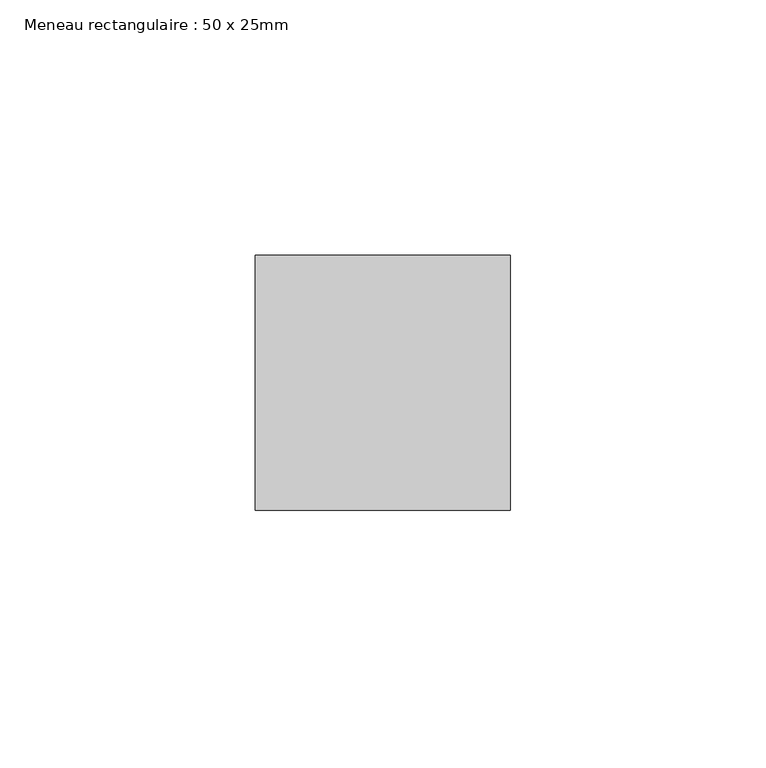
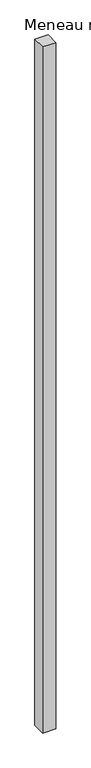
"""IFC4 building model written with IfcOpenShell, lengths in millimetres: member geometry, Meneau rectangulaire : 50 x 25mm."""

from ifc_helpers import new_model, si_unit, frame, origin, place, context, project, spatial, polyline, outline, extrude, source, transform, mapped, element, save


def meneau_rectangulaire_50_x_25mm_8ffd65cf(model_context):
    return source(origin(), model_context, "Body", "SweptSolid", [
        extrude(outline(polyline([(0.0, 0.0), (0.0, -50.0), (-50.0, -50.0), (-50.0, 0.0), (0.0, 0.0)])), frame((0.0, 0.0, -2714.8242181), z_axis=(0.0, 0.0, 1.0), x_axis=(1.0, 0.0, 0.0)), (0.0, 0.0, 1.0), 2714.8242181),
    ])


if __name__ == "__main__":
    model = new_model("IFC4")
    model_context = context("Model", 3, world=origin())
    ifc_project = project(units=[si_unit("LENGTHUNIT", "METRE", prefix="MILLI")], contexts=[model_context])
    site = spatial("IfcSite", under=ifc_project)
    building = spatial("IfcBuilding", under=site)
    placement = place(None, origin())
    meneau_rectangulaire_50_x_25mm_shape = meneau_rectangulaire_50_x_25mm_8ffd65cf(model_context)
    element("IfcMember", 1, ObjectType="Meneau rectangulaire : 50 x 25mm", at=placement, inside=building, context=model_context, shape_type="MappedRepresentation", body=[
        mapped(meneau_rectangulaire_50_x_25mm_shape, transform((0.0, 0.0, 0.0), x_axis=(1.0, 0.0, 0.0), y_axis=(0.0, 1.0, 0.0), z_axis=(0.0, 0.0, 1.0))),
    ])
    save(model, "model.ifc")
